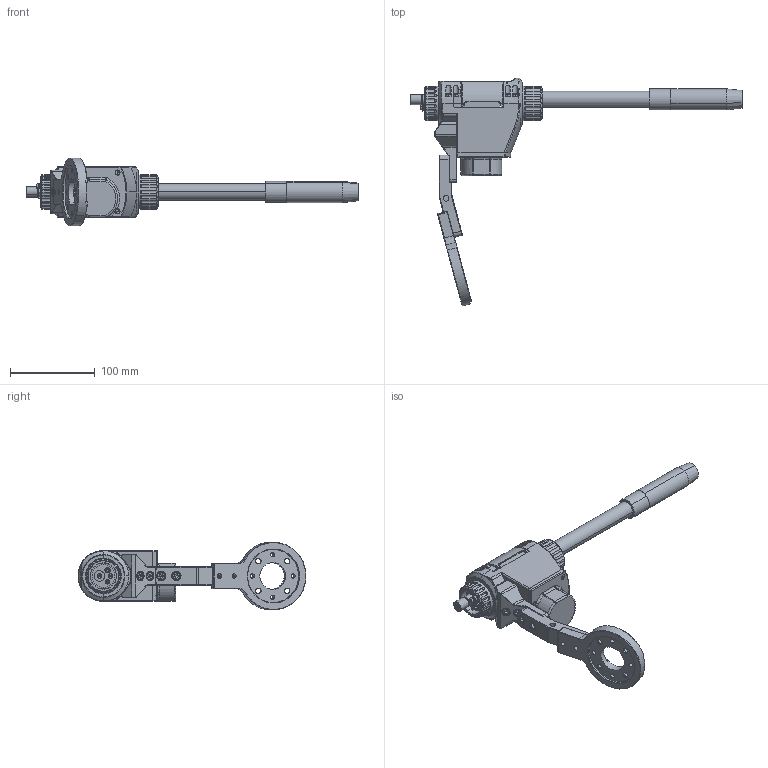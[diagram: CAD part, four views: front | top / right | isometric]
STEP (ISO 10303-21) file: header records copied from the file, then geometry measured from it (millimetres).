
FILE_DESCRIPTION (( 'STEP AP203' ), '1' );
FILE_NAME ('ﾖﾇﾄﾜｺｸｽﾓｹ､ﾗｰﾕｾ-ﾍﾆﾀｭﾋｿｺｸﾇｹ.STEP', '2024-11-07T06:26:24', ( '' ), ( '' ), 'SwSTEP 2.0', 'SolidWorks 2018', '' );
FILE_SCHEMA (( 'CONFIG_CONTROL_DESIGN' ));
Length unit declared in the file: millimetre
Products named in the file (1): ﾖﾇﾄﾜｺｸｽﾓｹ､ﾗｰﾕｾ-ﾍﾆﾀｭﾋｿｺｸﾇｹ
Bounding box: 392.2 x 269.22 x 79.89 mm (x, y, z)
Surface area: 102709.7 mm2 (no closed solid volume)
Topology: 0 solids, 56 shells, 850 faces, 2560 edges, 1717 vertices
Faces by surface type: cylinder 267, plane 263, bspline 115, torus 112, cone 91, sphere 2
Entity records: 38712 total; most frequent: CARTESIAN_POINT 16703, DIRECTION 4517, ORIENTED_EDGE 4305, EDGE_CURVE 2540, VERTEX_POINT 1717, AXIS2_PLACEMENT_3D 1684, VECTOR 1149, LINE 1149
